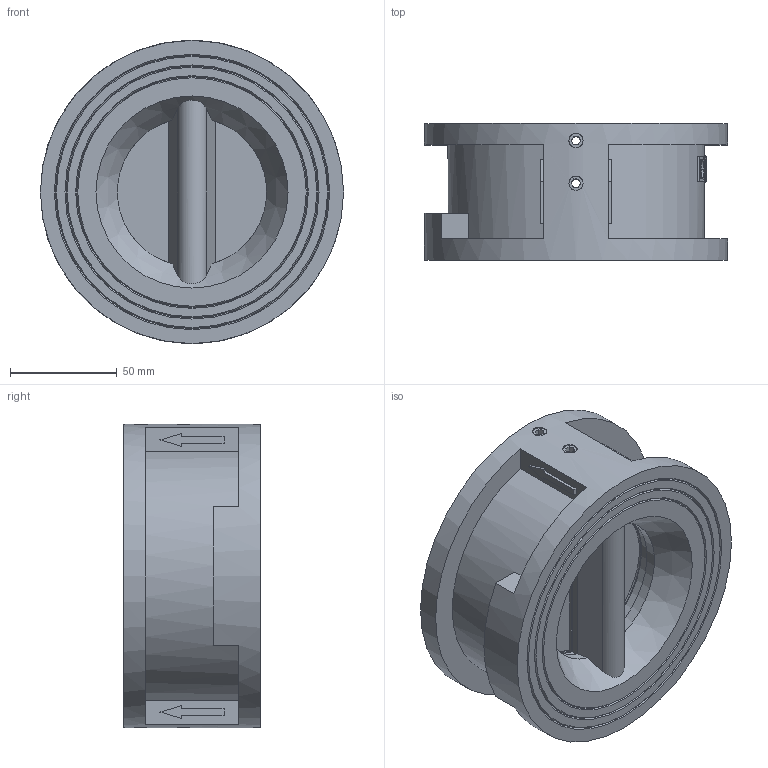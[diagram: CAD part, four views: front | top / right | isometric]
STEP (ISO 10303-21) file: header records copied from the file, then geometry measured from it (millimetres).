
FILE_DESCRIPTION(/* description */ (''),/* implementation_level */ '2;1');
FILE_NAME(/* name */ 'E:\WorkSpace\Designs\1700\1700081.stp',/* time_stamp */ '2022-09-15T13:12:37+02:00',/* author */ ('JJ'),/* organization */ (''),/* preprocessor_version */ 'ST-DEVELOPER v18.1',/* originating_system */ 'Autodesk Inventor 2022',/* authorisation */ '');
FILE_SCHEMA (('AUTOMOTIVE_DESIGN { 1 0 10303 214 3 1 1 }'));
Length unit declared in the file: millimetre
Products named in the file (1): 1700081
Bounding box: 142 x 64 x 142 mm (x, y, z)
Volume: 526106.8 mm3; surface area: 103437.5 mm2
Topology: 2 solids, 2 shells, 319 faces, 807 edges, 529 vertices
Faces by surface type: plane 175, bspline 64, cylinder 51, cone 27, torus 2
Full cylindrical faces by diameter (mm): 4 x4, 6 x2, 6.1 x5, 6.647 x4, 7.2 x4, 12 x5, 14 x2, 94 x1, 142 x1
Entity records: 17841 total; most frequent: CARTESIAN_POINT 10080, ORIENTED_EDGE 1606, DIRECTION 1360, EDGE_CURVE 803, VERTEX_POINT 529, AXIS2_PLACEMENT_3D 464, LINE 432, VECTOR 432
